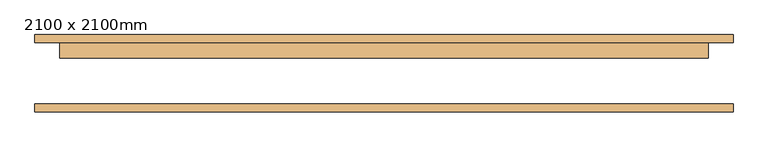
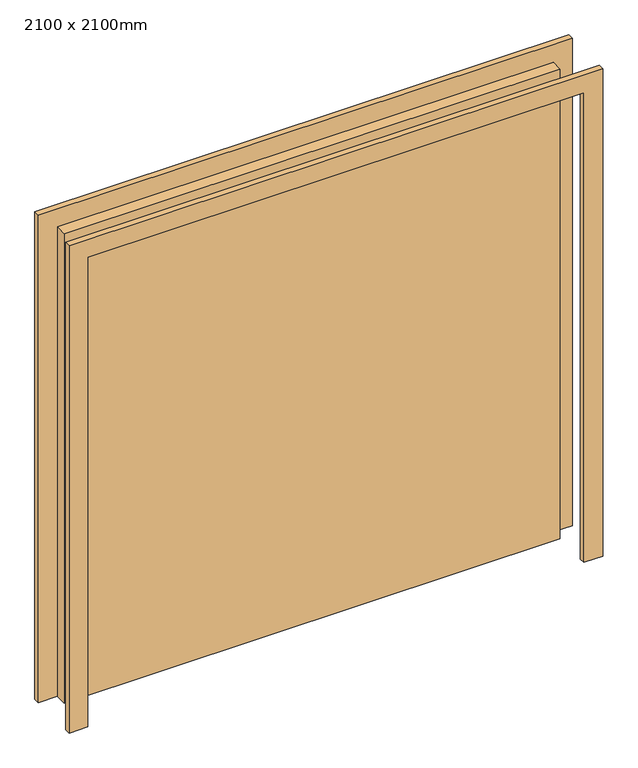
"""IFC4 building model written with IfcOpenShell, lengths in millimetres: door geometry, Дверь-Двойная-Щитовая_Панель-Двустороняя : 2100 x 2100mm."""

from ifc_helpers import new_model, si_unit, frame, origin, origin_with_axes, place, context, project, spatial, polyline, outline, extrude, source, transform, mapped, element, save


def door_2100_x_2100mm_9d58f4e7(model_context):
    return source(origin(), model_context, "Body", "SweptSolid", [
        extrude(outline(polyline([(2180.0, -1130.0), (0.0, -1130.0), (0.0, -1050.0), (2100.0, -1050.0), (2100.0, 1050.0), (0.0, 1050.0), (0.0, 1130.0), (2180.0, 1130.0), (2180.0, -1130.0)])), frame((0.0, 100.0, 0.0), z_axis=(0.0, 1.0, 0.0), x_axis=(0.0, 0.0, 1.0)), (0.0, 0.0, 1.0), 25.0),
        extrude(outline(polyline([(2100.0, -1050.0), (2100.0, 1050.0), (0.0, 1050.0), (0.0, 1130.0), (2180.0, 1130.0), (2180.0, -1130.0), (0.0, -1130.0), (0.0, -1050.0), (2100.0, -1050.0)])), frame((0.0, -125.0, 0.0), z_axis=(0.0, 1.0, 0.0), x_axis=(0.0, 0.0, 1.0)), (0.0, 0.0, 1.0), 25.0),
        extrude(outline(polyline([(-1050.0, 100.0), (1050.0, 100.0), (1050.0, 50.0), (-1050.0, 50.0), (-1050.0, 100.0)])), origin_with_axes(), (0.0, 0.0, 1.0), 2100.0),
    ])


if __name__ == "__main__":
    model = new_model("IFC4")
    model_context = context("Model", 3, world=origin())
    ifc_project = project(units=[si_unit("LENGTHUNIT", "METRE", prefix="MILLI")], contexts=[model_context])
    site = spatial("IfcSite", under=ifc_project)
    building = spatial("IfcBuilding", under=site)
    placement = place(None, origin())
    door_2100_x_2100mm_shape = door_2100_x_2100mm_9d58f4e7(model_context)
    element("IfcDoor", 1, ObjectType="Дверь-Двойная-Щитовая_Панель-Двустороняя : 2100 x 2100mm", at=placement, inside=building, context=model_context, shape_type="MappedRepresentation", body=[
        mapped(door_2100_x_2100mm_shape, transform((0.0, 0.0, 0.0), x_axis=(1.0, 0.0, 0.0), y_axis=(0.0, 1.0, 0.0), z_axis=(0.0, 0.0, 1.0))),
    ])
    save(model, "model.ifc")
